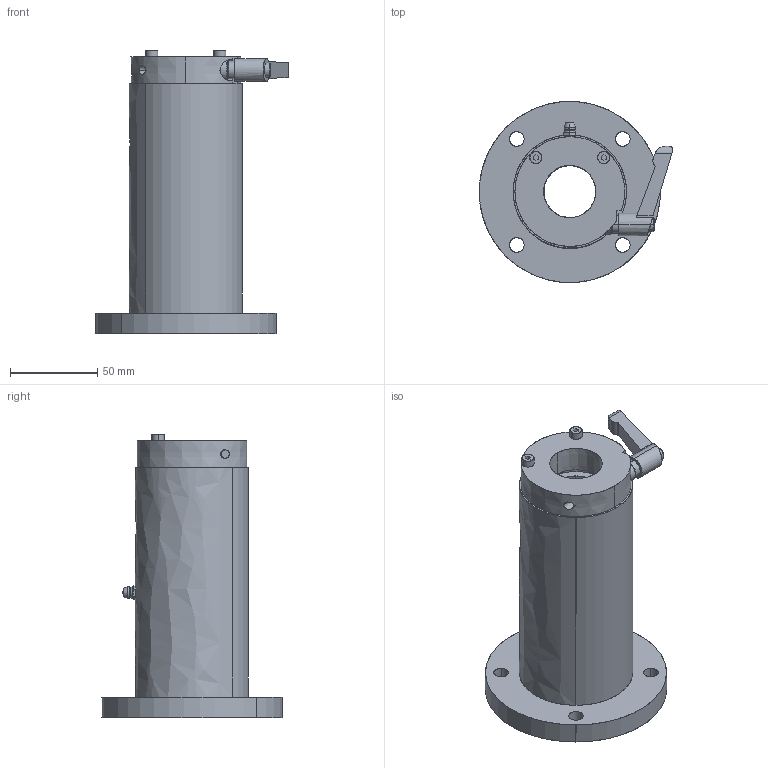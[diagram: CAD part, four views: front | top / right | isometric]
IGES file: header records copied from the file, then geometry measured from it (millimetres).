
Start section: SolidWorks IGES file using analytic representation for surfaces
Global section: file name: C:\Users\yamad\Desktop\IGES\LFW30-OH-C.IGS; native system: SolidWorks 2019; preprocessor: SolidWorks 2019; author: yamad; date: 230626.170615; units: millimetre
Bounding box: 111.1 x 104 x 163 mm (x, y, z)
Surface area: 84178.9 mm2 (no closed solid volume)
Topology: 0 solids, 0 shells, 227 faces, 5926 edges, 5924 vertices
Faces by surface type: bspline 122, revolution 105
